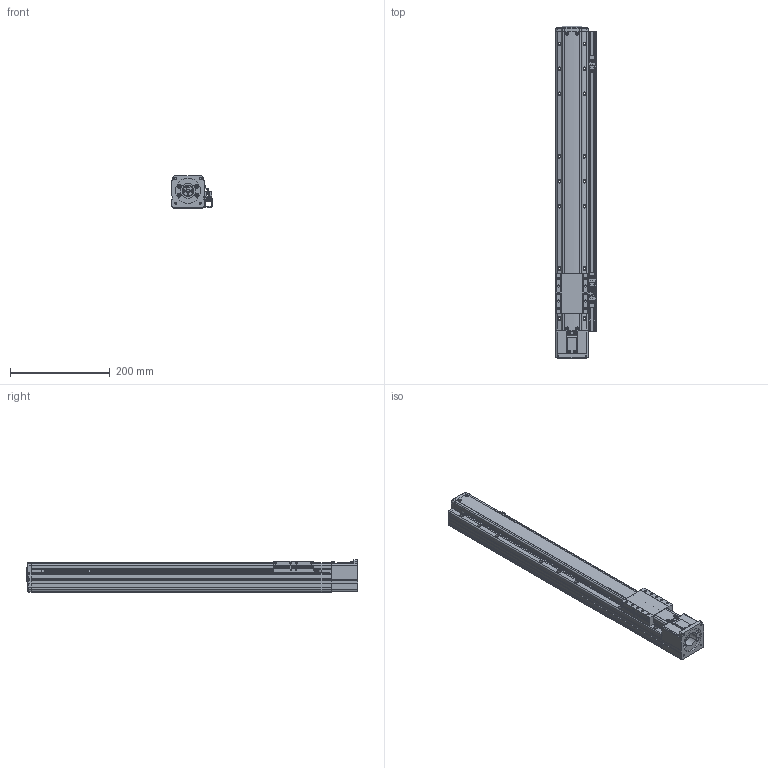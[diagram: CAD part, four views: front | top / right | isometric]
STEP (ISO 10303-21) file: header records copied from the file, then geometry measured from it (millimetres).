
FILE_DESCRIPTION(('STEP AP214'),'1');
FILE_NAME('Z:/Web/3D/PSA65/STP/PSA65-450 (3D)/PSA65ㅁㅁ-450S+3SR.stp','2014-06-25T04:54:19',(' '),(' '),'Spatial InterOp 3D',' ',' ');
FILE_SCHEMA(('automotive_design'));
Length unit declared in the file: millimetre
Products named in the file (98): SLIDE; RRCV-PA060; 1; 2; 3; 4; 5; 6; 7; 8; 9; 10; 11; 12; 13; 14; 15; 16; 17; 18; 19; 20; 21; 22; 23; 24; 25; 26; 27; 28; 29; 30; 31; 스크루 : Round - M3.0 x 8.0; RN8 x 0.75; SHAFT-SAN65; BASE; 스크루 : Round - M3.0 x 6.0; MTHZ - PSA65-60A; CPLCV-SAN45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
Bounding box: 81 x 664.8 x 65 mm (x, y, z)
Volume: 2110152.1 mm3; surface area: 367083.9 mm2
Topology: 98 solids, 98 shells, 2865 faces, 7553 edges, 4867 vertices
Faces by surface type: plane 1571, cylinder 860, cone 341, sphere 50, bspline 23, torus 20
Entity records: 114852 total; most frequent: CARTESIAN_POINT 18023, DIRECTION 15553, ORIENTED_EDGE 14862, EDGE_CURVE 7431, AXIS2_PLACEMENT_3D 5375, VERTEX_POINT 4867, LINE 4803, VECTOR 4803
